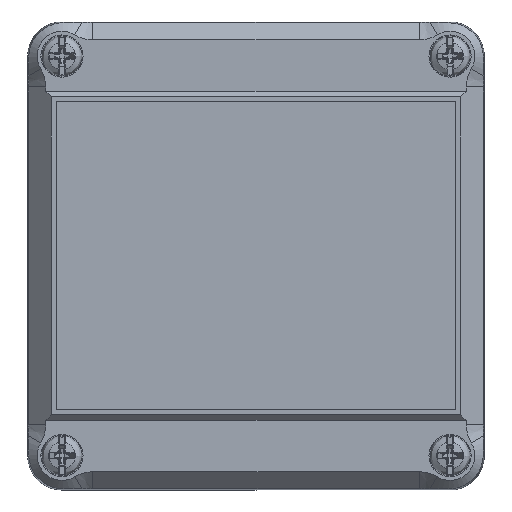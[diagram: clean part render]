
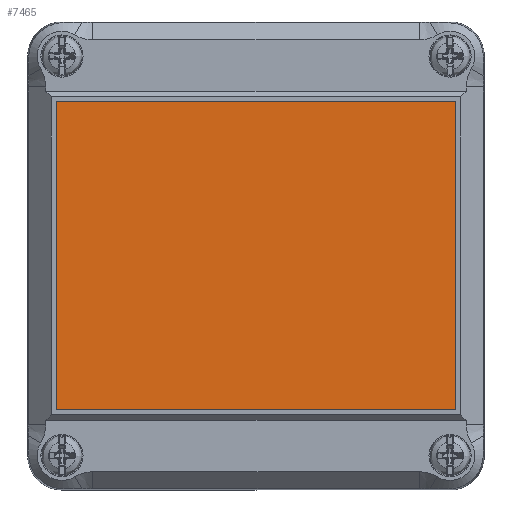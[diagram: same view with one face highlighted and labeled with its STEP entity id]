
A CAD part, top view. The second image highlights one B-rep face of the part: STEP entity #7465.
In plain terms, the highlighted planar face has unit normal (0, 0, 1) as drawn and (0, 0, -1) by its records, which use the part's own axes.
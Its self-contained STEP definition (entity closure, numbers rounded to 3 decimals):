
#7364=CARTESIAN_POINT('',(-35.0,-27.,-7.5));
#7365=VERTEX_POINT('',#7364);
#7372=CARTESIAN_POINT('',(35.,-27.,-7.5));
#7373=VERTEX_POINT('',#7372);
#7374=CARTESIAN_POINT('',(35.,-27.,-7.5));
#7375=DIRECTION('',(-1.0,0.0,0.0));
#7376=VECTOR('',#7375,70.);
#7377=LINE('',#7374,#7376);
#7378=EDGE_CURVE('',#7373,#7365,#7377,.T.);
#7396=CARTESIAN_POINT('',(35.0,27.,-7.5));
#7397=VERTEX_POINT('',#7396);
#7398=CARTESIAN_POINT('',(35.0,27.,-7.5));
#7399=DIRECTION('',(0.0,-1.0,0.0));
#7400=VECTOR('',#7399,54.0);
#7401=LINE('',#7398,#7400);
#7402=EDGE_CURVE('',#7397,#7373,#7401,.T.);
#7420=CARTESIAN_POINT('',(-35.0,27.,-7.5));
#7421=VERTEX_POINT('',#7420);
#7422=CARTESIAN_POINT('',(-35.0,27.,-7.5));
#7423=DIRECTION('',(1.0,0.0,0.0));
#7424=VECTOR('',#7423,70.0);
#7425=LINE('',#7422,#7424);
#7426=EDGE_CURVE('',#7421,#7397,#7425,.T.);
#7444=CARTESIAN_POINT('',(-35.0,-27.,-7.5));
#7445=DIRECTION('',(0.0,1.0,0.0));
#7446=VECTOR('',#7445,54.0);
#7447=LINE('',#7444,#7446);
#7448=EDGE_CURVE('',#7365,#7421,#7447,.T.);
#7454=CARTESIAN_POINT('',(0.,0.,-7.5));
#7455=DIRECTION('',(0.0,0.0,1.0));
#7456=DIRECTION('',(1.0,0.0,0.0));
#7457=AXIS2_PLACEMENT_3D('',#7454,#7455,#7456);
#7458=PLANE('',#7457);
#7459=ORIENTED_EDGE('',*,*,#7448,.T.);
#7460=ORIENTED_EDGE('',*,*,#7426,.T.);
#7461=ORIENTED_EDGE('',*,*,#7402,.T.);
#7462=ORIENTED_EDGE('',*,*,#7378,.T.);
#7463=EDGE_LOOP('',(#7459,#7460,#7461,#7462));
#7464=FACE_OUTER_BOUND('',#7463,.T.);
#7465=ADVANCED_FACE('',(#7464),#7458,.F.);
